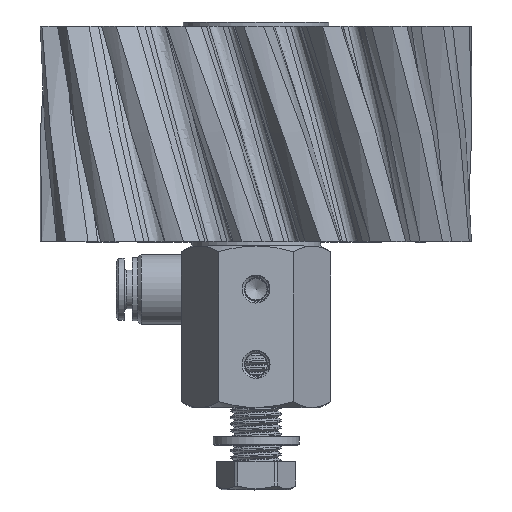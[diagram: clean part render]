
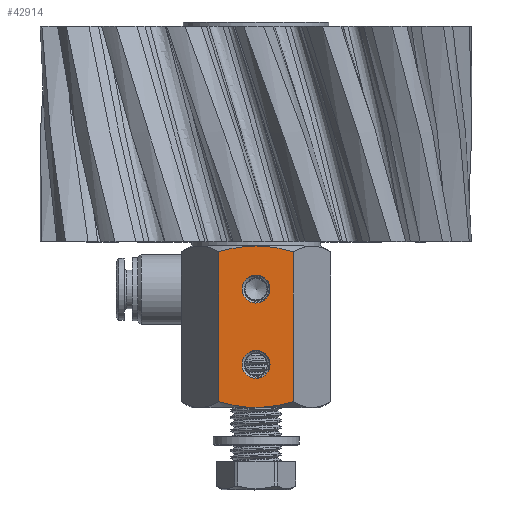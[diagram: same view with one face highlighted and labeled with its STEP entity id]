
A CAD part, top view. The second image highlights one B-rep face of the part: STEP entity #42914.
In plain terms, the highlighted planar face has unit normal (0, 0, 1).
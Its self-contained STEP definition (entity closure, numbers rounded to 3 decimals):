
#307 = ORIENTED_EDGE ( 'NONE', *, *, #81326, .T. ) ;
#2991 = CARTESIAN_POINT ( 'NONE',  ( 0., 30., 12. ) ) ;
#3016 = CIRCLE ( 'NONE', #54280, 2.6 ) ;
#3479 = EDGE_CURVE ( 'NONE', #21240, #21240, #21442, .T. ) ;
#4243 = DIRECTION ( 'NONE',  ( 1., 0., 0. ) ) ;
#4950 = CARTESIAN_POINT ( 'NONE',  ( 0., 22., 12. ) ) ;
#6739 = CARTESIAN_POINT ( 'NONE',  ( 5.801, 0.746, 12. ) ) ;
#6873 = VERTEX_POINT ( 'NONE', #46085 ) ;
#8614 = CARTESIAN_POINT ( 'NONE',  ( -0.593, 30., 12. ) ) ;
#8729 = ORIENTED_EDGE ( 'NONE', *, *, #3479, .F. ) ;
#9017 = CARTESIAN_POINT ( 'NONE',  ( -6.928, 28.928, 12. ) ) ;
#9172 = EDGE_CURVE ( 'NONE', #71946, #71946, #3016, .T. ) ;
#9229 = EDGE_CURVE ( 'NONE', #16623, #13178, #22581, .T. ) ;
#13178 = VERTEX_POINT ( 'NONE', #78198 ) ;
#13787 = AXIS2_PLACEMENT_3D ( 'NONE', #75494, #36615, #23521 ) ;
#14943 = CARTESIAN_POINT ( 'NONE',  ( -2.933, 29.803, 12. ) ) ;
#16504 = DIRECTION ( 'NONE',  ( 0., -1., 0. ) ) ;
#16623 = VERTEX_POINT ( 'NONE', #17250 ) ;
#17250 = CARTESIAN_POINT ( 'NONE',  ( 0., 30., 12. ) ) ;
#19577 = B_SPLINE_CURVE_WITH_KNOTS ( 'NONE', 3,
 ( #50310, #70587, #76957, #26619, #51571, #77776 ),
 .UNSPECIFIED., .F., .F.,
 ( 4, 2, 4 ),
 ( 0.015, 0.019, 0.022 ),
 .UNSPECIFIED. ) ;
#20844 = CARTESIAN_POINT ( 'NONE',  ( 0., 30., 12. ) ) ;
#21240 = VERTEX_POINT ( 'NONE', #59704 ) ;
#21442 = CIRCLE ( 'NONE', #32257, 2.6 ) ;
#21898 = ORIENTED_EDGE ( 'NONE', *, *, #9229, .T. ) ;
#22112 = EDGE_LOOP ( 'NONE', ( #48507 ) ) ;
#22573 = EDGE_CURVE ( 'NONE', #78769, #26682, #19577, .T. ) ;
#22581 = B_SPLINE_CURVE_WITH_KNOTS ( 'NONE', 3,
 ( #20844, #8614, #25198, #66881, #14943, #25630, #38740, #9017 ),
 .UNSPECIFIED., .F., .F.,
 ( 4, 2, 2, 4 ),
 ( 0.022, 0.024, 0.026, 0.029 ),
 .UNSPECIFIED. ) ;
#22690 = PLANE ( 'NONE',  #13787 ) ;
#23521 = DIRECTION ( 'NONE',  ( 1., 0., 0. ) ) ;
#23768 = VECTOR ( 'NONE', #55053, 1000. ) ;
#25198 = CARTESIAN_POINT ( 'NONE',  ( -1.183, 29.974, 12. ) ) ;
#25630 = CARTESIAN_POINT ( 'NONE',  ( -4.663, 29.523, 12. ) ) ;
#26619 = CARTESIAN_POINT ( 'NONE',  ( -2.354, 0.103, 12. ) ) ;
#26682 = VERTEX_POINT ( 'NONE', #44692 ) ;
#28160 = CARTESIAN_POINT ( 'NONE',  ( -6.928, 1.072, 12. ) ) ;
#28616 = FACE_OUTER_BOUND ( 'NONE', #51984, .T. ) ;
#28829 = VECTOR ( 'NONE', #16504, 1000. ) ;
#28870 = LINE ( 'NONE', #61408, #23768 ) ;
#29339 = CARTESIAN_POINT ( 'NONE',  ( 6.928, 1.072, 12. ) ) ;
#30334 = ORIENTED_EDGE ( 'NONE', *, *, #35501, .T. ) ;
#30810 = VERTEX_POINT ( 'NONE', #29339 ) ;
#31126 = DIRECTION ( 'NONE',  ( -1., 0., 0. ) ) ;
#31871 = B_SPLINE_CURVE_WITH_KNOTS ( 'NONE', 3,
 ( #45162, #70943, #58692, #83638, #32511, #38847, #6739, #48398 ),
 .UNSPECIFIED., .F., .F.,
 ( 4, 2, 2, 4 ),
 ( 0.022, 0.024, 0.026, 0.029 ),
 .UNSPECIFIED. ) ;
#32257 = AXIS2_PLACEMENT_3D ( 'NONE', #68441, #36344, #4243 ) ;
#32511 = CARTESIAN_POINT ( 'NONE',  ( 2.933, 0.197, 12. ) ) ;
#35086 = CARTESIAN_POINT ( 'NONE',  ( 2.354, 29.897, 12. ) ) ;
#35501 = EDGE_CURVE ( 'NONE', #13178, #78769, #69898, .T. ) ;
#36344 = DIRECTION ( 'NONE',  ( 0., 0., 1. ) ) ;
#36615 = DIRECTION ( 'NONE',  ( 0., 0., 1. ) ) ;
#38740 = CARTESIAN_POINT ( 'NONE',  ( -5.801, 29.254, 12. ) ) ;
#38847 = CARTESIAN_POINT ( 'NONE',  ( 4.663, 0.477, 12. ) ) ;
#41437 = CARTESIAN_POINT ( 'NONE',  ( 5.8, 29.254, 12. ) ) ;
#42914 = ADVANCED_FACE ( 'NONE', ( #61157, #81831, #28616 ), #22690, .T. ) ;
#44692 = CARTESIAN_POINT ( 'NONE',  ( 0., 0., 12. ) ) ;
#45162 = CARTESIAN_POINT ( 'NONE',  ( 0., 0., 12. ) ) ;
#46085 = CARTESIAN_POINT ( 'NONE',  ( 6.928, 28.928, 12. ) ) ;
#48198 = CARTESIAN_POINT ( 'NONE',  ( -6.928, 30., 12. ) ) ;
#48398 = CARTESIAN_POINT ( 'NONE',  ( 6.928, 1.072, 12. ) ) ;
#48507 = ORIENTED_EDGE ( 'NONE', *, *, #9172, .T. ) ;
#50310 = CARTESIAN_POINT ( 'NONE',  ( -6.928, 1.072, 12. ) ) ;
#51571 = CARTESIAN_POINT ( 'NONE',  ( -1.186, 0., 12. ) ) ;
#51984 = EDGE_LOOP ( 'NONE', ( #307, #21898, #30334, #79401, #53410, #78829 ) ) ;
#53410 = ORIENTED_EDGE ( 'NONE', *, *, #81576, .T. ) ;
#54280 = AXIS2_PLACEMENT_3D ( 'NONE', #4950, #68741, #31126 ) ;
#55053 = DIRECTION ( 'NONE',  ( 0., -1., 0. ) ) ;
#58068 = EDGE_LOOP ( 'NONE', ( #8729 ) ) ;
#58692 = CARTESIAN_POINT ( 'NONE',  ( 1.183, 0.026, 12. ) ) ;
#59704 = CARTESIAN_POINT ( 'NONE',  ( 2.6, 8., 12. ) ) ;
#60866 = CARTESIAN_POINT ( 'NONE',  ( 1.186, 30., 12. ) ) ;
#61157 = FACE_BOUND ( 'NONE', #58068, .T. ) ;
#61408 = CARTESIAN_POINT ( 'NONE',  ( 6.928, 30., 12. ) ) ;
#65621 = CARTESIAN_POINT ( 'NONE',  ( -2.6, 22., 12. ) ) ;
#66881 = CARTESIAN_POINT ( 'NONE',  ( -2.353, 29.876, 12. ) ) ;
#67005 = B_SPLINE_CURVE_WITH_KNOTS ( 'NONE', 3,
 ( #79900, #41437, #67186, #35086, #60866, #2991 ),
 .UNSPECIFIED., .F., .F.,
 ( 4, 2, 4 ),
 ( 0.015, 0.019, 0.022 ),
 .UNSPECIFIED. ) ;
#67186 = CARTESIAN_POINT ( 'NONE',  ( 4.661, 29.523, 12. ) ) ;
#68441 = CARTESIAN_POINT ( 'NONE',  ( 0., 8., 12. ) ) ;
#68741 = DIRECTION ( 'NONE',  ( 0., 0., -1. ) ) ;
#69898 = LINE ( 'NONE', #48198, #28829 ) ;
#70587 = CARTESIAN_POINT ( 'NONE',  ( -5.8, 0.746, 12. ) ) ;
#70943 = CARTESIAN_POINT ( 'NONE',  ( 0.593, 0., 12. ) ) ;
#71946 = VERTEX_POINT ( 'NONE', #65621 ) ;
#73632 = EDGE_CURVE ( 'NONE', #6873, #30810, #28870, .T. ) ;
#75494 = CARTESIAN_POINT ( 'NONE',  ( 6.928, 30., 12. ) ) ;
#76957 = CARTESIAN_POINT ( 'NONE',  ( -4.661, 0.477, 12. ) ) ;
#77776 = CARTESIAN_POINT ( 'NONE',  ( 0., 0., 12. ) ) ;
#78198 = CARTESIAN_POINT ( 'NONE',  ( -6.928, 28.928, 12. ) ) ;
#78769 = VERTEX_POINT ( 'NONE', #28160 ) ;
#78829 = ORIENTED_EDGE ( 'NONE', *, *, #73632, .F. ) ;
#79401 = ORIENTED_EDGE ( 'NONE', *, *, #22573, .T. ) ;
#79900 = CARTESIAN_POINT ( 'NONE',  ( 6.928, 28.928, 12. ) ) ;
#81326 = EDGE_CURVE ( 'NONE', #6873, #16623, #67005, .T. ) ;
#81576 = EDGE_CURVE ( 'NONE', #26682, #30810, #31871, .T. ) ;
#81831 = FACE_BOUND ( 'NONE', #22112, .T. ) ;
#83638 = CARTESIAN_POINT ( 'NONE',  ( 2.353, 0.124, 12. ) ) ;
